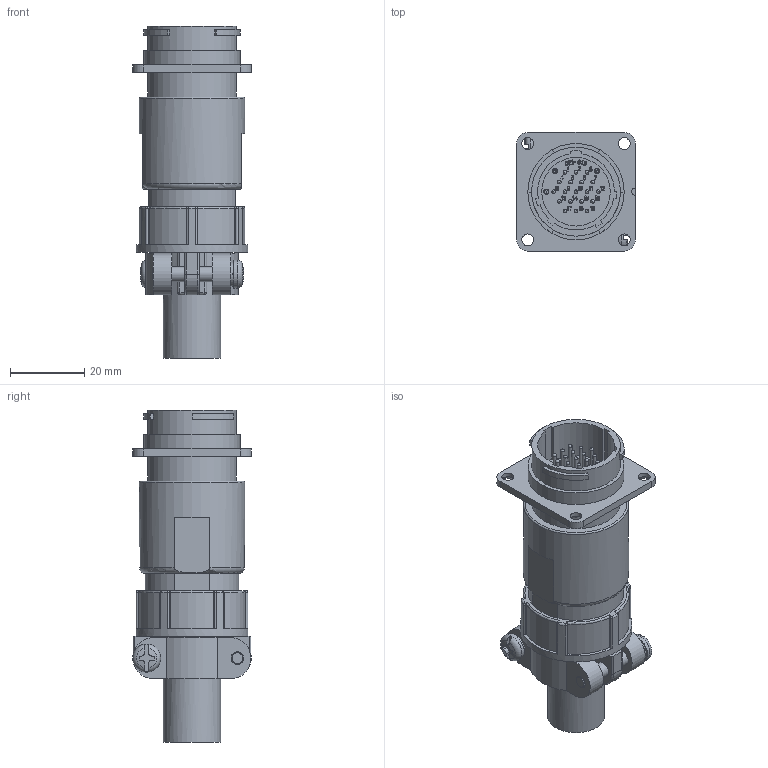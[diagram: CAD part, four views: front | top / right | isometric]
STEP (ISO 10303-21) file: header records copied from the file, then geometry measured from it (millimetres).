
FILE_DESCRIPTION (( 'STEP AP203' ), '1' );
FILE_NAME ('WEBWR2119M-2-D(R1).STEP', '2021-08-03T01:58:33', ( '' ), ( '' ), 'SwSTEP 2.0', 'SolidWorks 2018', '' );
FILE_SCHEMA (( 'CONFIG_CONTROL_DESIGN' ));
Length unit declared in the file: millimetre
Products named in the file (1): WEBWR2119M-2-D(R1)
Bounding box: 32 x 32.1 x 89.58 mm (x, y, z)
Volume: 27889.1 mm3; surface area: 19699.5 mm2
Topology: 1 solids, 1 shells, 1764 faces, 4783 edges, 3134 vertices
Faces by surface type: plane 757, bspline 700, cylinder 212, sphere 39, cone 33, torus 23
Full cylindrical faces by diameter (mm): 1 x19, 1.1 x22, 1.2 x1, 1.4 x4, 1.55 x19, 2.8 x2, 3.2 x4, 3.4 x2, 4.1 x2, 4.3 x4, 7.6 x2, 11 x2, 15.46 x1, 15.8 x1, 16.22 x1, 18.1 x1, 18.5 x1, 20.1 x1, 20.45 x1, 23.96 x1, 24 x1, 26 x2, 28.4 x1, 30.2 x1
Entity records: 76205 total; most frequent: CARTESIAN_POINT 37525, ORIENTED_EDGE 9054, DIRECTION 5657, EDGE_CURVE 4527, VERTEX_POINT 3048, VECTOR 2575, LINE 2575, EDGE_LOOP 2071
